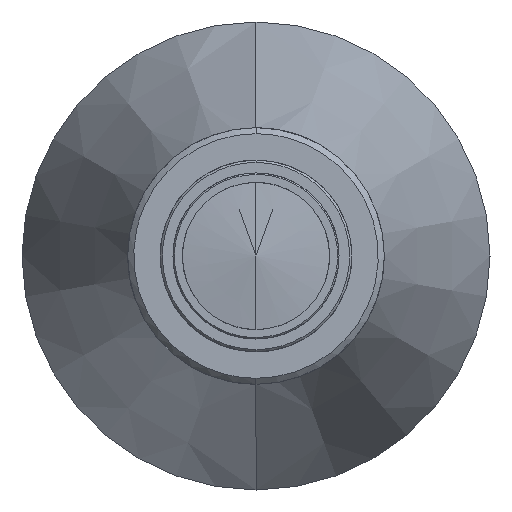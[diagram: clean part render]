
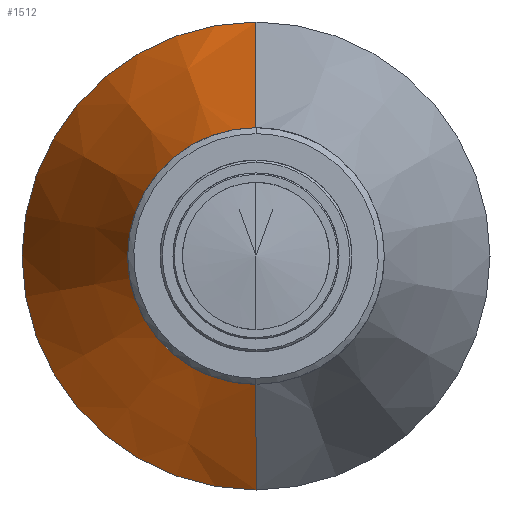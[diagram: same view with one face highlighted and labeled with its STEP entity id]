
A CAD part, left-side view. The second image highlights one B-rep face of the part: STEP entity #1512.
In plain terms, the highlighted conical face has half-angle 20 degrees and reference radius 17 mm.
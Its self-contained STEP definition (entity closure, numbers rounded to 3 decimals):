
#66 = CARTESIAN_POINT ( 'NONE',  ( 83., 0., 0. ) ) ;
#162 = ORIENTED_EDGE ( 'NONE', *, *, #1903, .F. ) ;
#235 = EDGE_CURVE ( 'NONE', #1014, #2144, #253, .T. ) ;
#253 = LINE ( 'NONE', #2843, #2573 ) ;
#263 = EDGE_LOOP ( 'NONE', ( #162, #2214, #2622, #2271 ) ) ;
#536 = CARTESIAN_POINT ( 'NONE',  ( 44.535, 0., -17. ) ) ;
#618 = CARTESIAN_POINT ( 'NONE',  ( 44.535, 0., 0. ) ) ;
#655 = CIRCLE ( 'NONE', #954, 31. ) ;
#715 = DIRECTION ( 'NONE',  ( 0., 0., 1. ) ) ;
#782 = DIRECTION ( 'NONE',  ( 0.94, 0., -0.342 ) ) ;
#823 = CONICAL_SURFACE ( 'NONE', #2393, 17., 0.349 ) ;
#846 = CARTESIAN_POINT ( 'NONE',  ( 44.535, 0., 0. ) ) ;
#954 = AXIS2_PLACEMENT_3D ( 'NONE', #66, #1604, #715 ) ;
#1014 = VERTEX_POINT ( 'NONE', #2377 ) ;
#1072 = DIRECTION ( 'NONE',  ( 0., 1., 0. ) ) ;
#1174 = CARTESIAN_POINT ( 'NONE',  ( 83., 0., 31. ) ) ;
#1231 = VERTEX_POINT ( 'NONE', #1497 ) ;
#1244 = EDGE_CURVE ( 'NONE', #2144, #2727, #655, .T. ) ;
#1275 = DIRECTION ( 'NONE',  ( 1., 0., 0. ) ) ;
#1335 = CARTESIAN_POINT ( 'NONE',  ( 83., 0., -31. ) ) ;
#1491 = VECTOR ( 'NONE', #782, 1000. ) ;
#1497 = CARTESIAN_POINT ( 'NONE',  ( 44.535, 0., -17. ) ) ;
#1512 = ADVANCED_FACE ( 'NONE', ( #2160 ), #823, .T. ) ;
#1523 = DIRECTION ( 'NONE',  ( -1., 0., 0. ) ) ;
#1594 = EDGE_CURVE ( 'NONE', #1231, #2727, #2091, .T. ) ;
#1604 = DIRECTION ( 'NONE',  ( -1., 0., 0. ) ) ;
#1699 = CIRCLE ( 'NONE', #1907, 17. ) ;
#1731 = DIRECTION ( 'NONE',  ( 0.94, 0., 0.342 ) ) ;
#1903 = EDGE_CURVE ( 'NONE', #1014, #1231, #1699, .T. ) ;
#1907 = AXIS2_PLACEMENT_3D ( 'NONE', #846, #1523, #1072 ) ;
#1973 = DIRECTION ( 'NONE',  ( 0., 0., -1. ) ) ;
#2091 = LINE ( 'NONE', #536, #1491 ) ;
#2144 = VERTEX_POINT ( 'NONE', #1174 ) ;
#2160 = FACE_OUTER_BOUND ( 'NONE', #263, .T. ) ;
#2214 = ORIENTED_EDGE ( 'NONE', *, *, #235, .T. ) ;
#2271 = ORIENTED_EDGE ( 'NONE', *, *, #1594, .F. ) ;
#2377 = CARTESIAN_POINT ( 'NONE',  ( 44.535, 0., 17. ) ) ;
#2393 = AXIS2_PLACEMENT_3D ( 'NONE', #618, #1275, #1973 ) ;
#2573 = VECTOR ( 'NONE', #1731, 1000. ) ;
#2622 = ORIENTED_EDGE ( 'NONE', *, *, #1244, .T. ) ;
#2727 = VERTEX_POINT ( 'NONE', #1335 ) ;
#2843 = CARTESIAN_POINT ( 'NONE',  ( 44.535, 0., 17. ) ) ;
